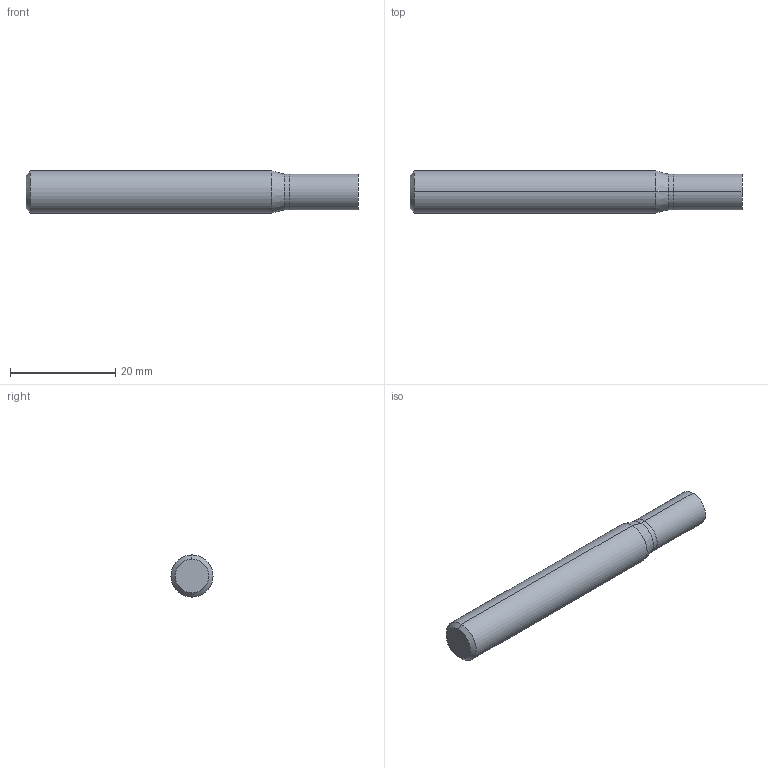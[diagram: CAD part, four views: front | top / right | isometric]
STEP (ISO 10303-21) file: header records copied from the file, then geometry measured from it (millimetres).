
FILE_DESCRIPTION (( 'STEP AP214' ), '1' );
FILE_NAME ('G9445967.STEP', '2018-07-02T09:39:44', ( '' ), ( '' ), 'SwSTEP 2.0', 'SolidWorks 2014', '' );
FILE_SCHEMA (( 'AUTOMOTIVE_DESIGN' ));
Length unit declared in the file: millimetre
Products named in the file (1): G9445967
Bounding box: 63 x 8 x 8 mm (x, y, z)
Volume: 2939.1 mm3; surface area: 1670.7 mm2
Topology: 2 solids, 2 shells, 14 faces, 24 edges, 14 vertices
Faces by surface type: cylinder 6, cone 4, plane 4
Entity records: 421 total; most frequent: DIRECTION 68, CARTESIAN_POINT 53, ORIENTED_EDGE 48, AXIS2_PLACEMENT_3D 29, EDGE_CURVE 24, VERTEX_POINT 14, ADVANCED_FACE 14, CIRCLE 14
